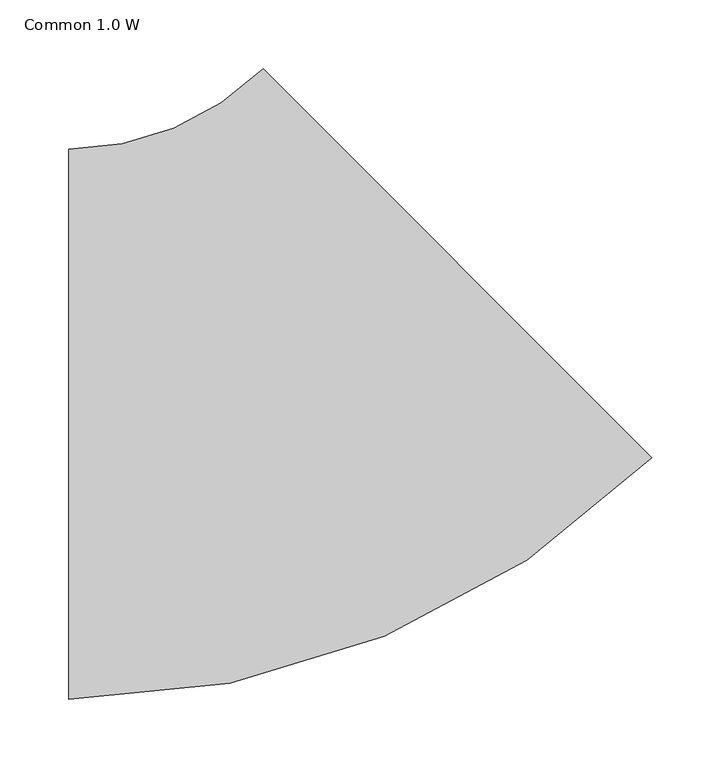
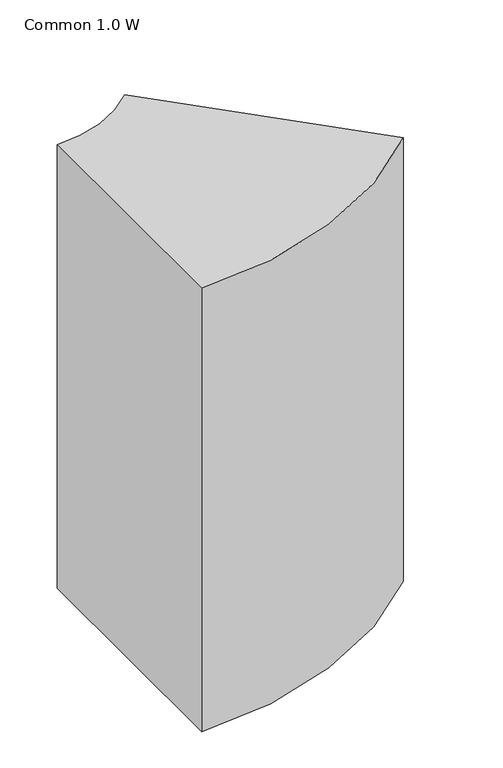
"""IFC4 building model written with IfcOpenShell, lengths in millimetres: duct fitting geometry, 011_角型エルボ - 半径 : Common 1.0 W."""

from ifc_helpers import new_model, si_unit, point, frame, frame_2d, origin, place, context, project, spatial, polyline, circle_curve, trimmed, segment, composite_curve, outline, extrude, source, transform, mapped, element, save


def common_1_0_w_ddcf5361(model_context):
    return source(origin(), model_context, "Body", "SweptSolid", [
        extrude(outline(composite_curve([segment(trimmed(circle_curve(frame_2d((-165.6854249, 400.0)), 600.0), [point((258.5786438, -24.2640687))], [point((-165.6854249, -200.0))], False, "CARTESIAN"), True, "CONTINUOUS"), segment(polyline([(-165.6854249, -200.0), (-165.6854249, 200.0)]), True, "CONTINUOUS"), segment(trimmed(circle_curve(frame_2d((-165.6854249, 400.0)), 200.0), [point((-165.6854249, 200.0))], [point((-24.2640687, 258.5786438))], True, "CARTESIAN"), True, "CONTINUOUS"), segment(polyline([(-24.2640687, 258.5786438), (258.5786438, -24.2640687)]), True, "CONTINUOUS")], self_intersect=False)), frame((0.0, 0.0, -375.0), z_axis=(0.0, 0.0, 1.0), x_axis=(1.0, 0.0, 0.0)), (0.0, 0.0, 1.0), 750.0),
    ])


if __name__ == "__main__":
    model = new_model("IFC4")
    model_context = context("Model", 3, world=origin())
    ifc_project = project(units=[si_unit("LENGTHUNIT", "METRE", prefix="MILLI")], contexts=[model_context])
    site = spatial("IfcSite", under=ifc_project)
    building = spatial("IfcBuilding", under=site)
    placement = place(None, origin())
    common_1_0_w_shape = common_1_0_w_ddcf5361(model_context)
    element("IfcDuctFitting", 1, ObjectType="011_角型エルボ - 半径 : Common 1.0 W", at=placement, inside=building, context=model_context, shape_type="MappedRepresentation", body=[
        mapped(common_1_0_w_shape, transform((0.0, 0.0, 0.0), x_axis=(1.0, 0.0, 0.0), y_axis=(0.0, 1.0, 0.0), z_axis=(0.0, 0.0, 1.0))),
    ])
    save(model, "model.ifc")
